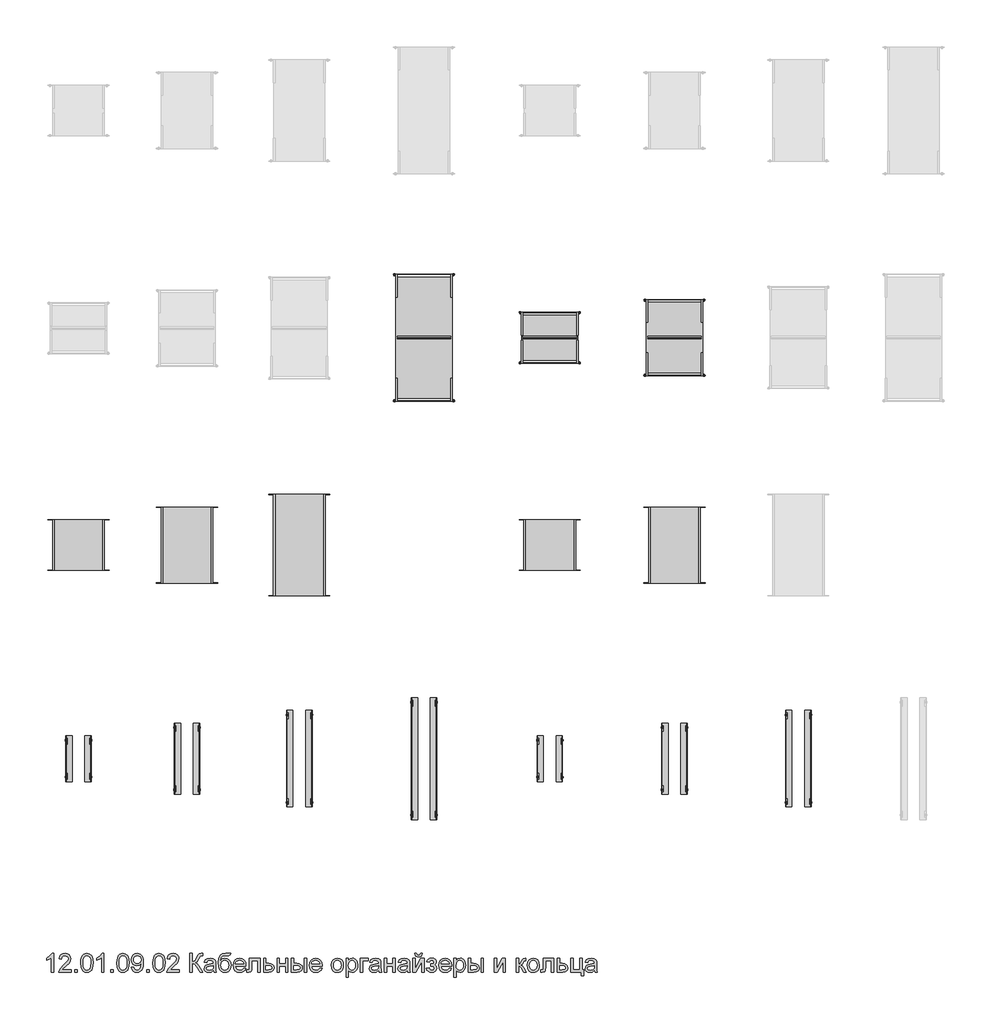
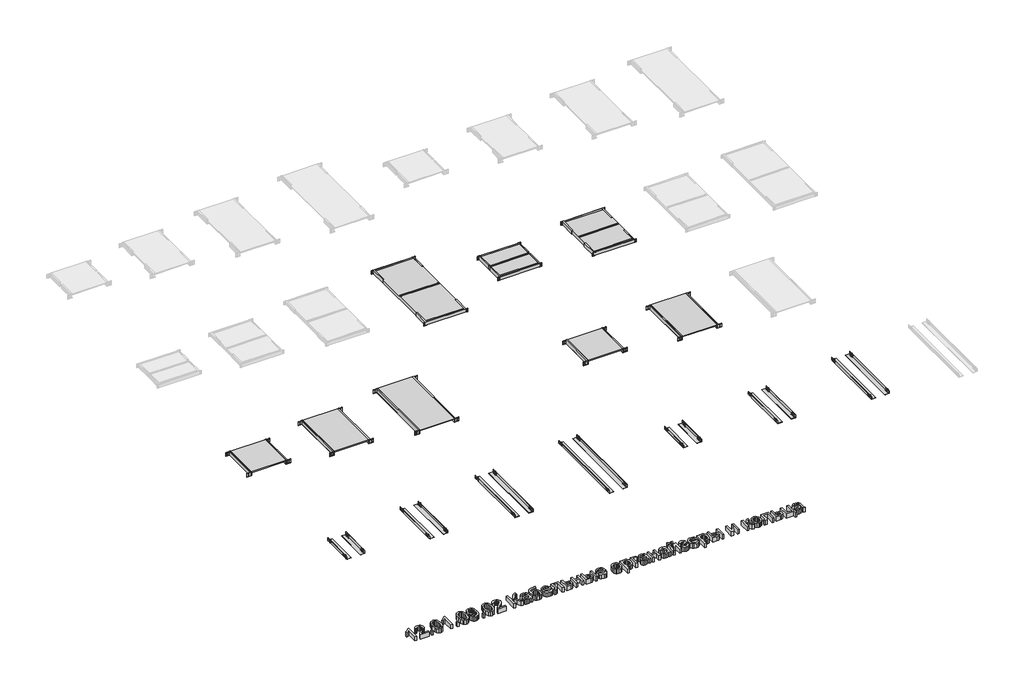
# One storey, part 3 of 9: 16 proxies.
"""IFC4 building model written with IfcOpenShell, lengths in millimetres."""

from ifc_helpers import new_model, si_unit, origin, origin_with_axes, place, context, project, spatial, polyline, outline, extrude, transform, mapped, element, save
from components import fs05_1000pm_f160d74f, fs05_400mp_c59a2a9c, fs05_600pm_b98099e4, sr05_1000_026dfe76, sr05_1000_b6e2f19d, sr05_400_26692d24, sr05_400_e49731d8, sr05_600_a44accf0, sr05_600_75813493, sr05_800_1027cb62, sr05_800_6b87222d, ss05_400pi_edb87cb5, ss05_600pi_b2c20814, ss05_800pi_71e741bb

model = new_model("IFC4")

# Units and contexts
model_context = context("Model", 3, world=origin())
ifc_project = project(units=[si_unit("LENGTHUNIT", "METRE", prefix="MILLI")], contexts=[model_context])

# Site, building, storey
site = spatial("IfcSite", under=ifc_project)
building = spatial("IfcBuilding", under=site)
storey = spatial("IfcBuildingStorey", under=building, Name="Уровень 1", Elevation=0.0)

# Proxies
placement = place(None, origin())
element("IfcBuildingElementProxy", 1, Name="Надпись на модели 1", ObjectType="Надпись на модели 1", at=placement, inside=storey, context=model_context, shape_type="SweptSolid", body=[
    extrude(outline(polyline([(-45344.4287165, -37022.1712032), (-45362.8902549, -37022.1712032), (-45362.8902549, -36907.0750493), (-45380.3782357, -36919.532982), (-45399.8133319, -36928.8538955), (-45399.8133319, -36911.4019724), (-45372.7520338, -36894.1303378), (-45356.3277549, -36874.4788955), (-45344.4287165, -36874.4788955), (-45344.4287165, -37022.1712032)])), origin_with_axes(), (0.0, 0.0, 1.0), 50.0),
    extrude(outline(polyline([(-45205.967178, -37003.7096647), (-45205.967178, -37022.1712032), (-45302.8902549, -37022.1712032), (-45300.9070819, -37009.4428378), (-45289.6931395, -36989.845482), (-45266.5801588, -36968.4452416), (-45234.7051588, -36937.6880301), (-45228.7285963, -36927.0870686), (-45226.7364088, -36916.7745686), (-45228.615916, -36907.5302777), (-45234.2544376, -36899.845482), (-45242.9218054, -36894.666696), (-45253.8878511, -36892.9404339), (-45265.4037766, -36894.6261311), (-45274.3505915, -36899.6832224), (-45280.1243294, -36907.7150734), (-45282.1210242, -36918.3250493), (-45300.5825626, -36916.017357), (-45296.1069016, -36898.1597849), (-45286.4299184, -36885.1159147), (-45272.0564208, -36877.1381503), (-45253.4912165, -36874.4788955), (-45234.7907958, -36877.4356262), (-45220.4443415, -36886.3058186), (-45211.3172381, -36899.5570205), (-45208.2748703, -36915.6567801), (-45211.5561203, -36933.1627897), (-45222.4635722, -36951.2637512), (-45248.9118895, -36976.5582224), (-45270.1498703, -36994.3166359), (-45278.4791972, -37003.7096647), (-45205.967178, -37003.7096647)])), origin_with_axes(), (0.0, 0.0, 1.0), 50.0),
    extrude(outline(polyline([(-45178.2748703, -37022.1712032), (-45178.2748703, -37003.7096647), (-45159.8133319, -37003.7096647), (-45159.8133319, -37022.1712032), (-45178.2748703, -37022.1712032)])), origin_with_axes(), (0.0, 0.0, 1.0), 50.0),
    extrude(outline(polyline([(-45129.8133319, -36949.5149532), (-45128.4566612, -36925.8746287), (-45124.3866492, -36907.0209628), (-45117.6438607, -36892.665494), (-45108.2688607, -36882.5197609), (-45096.194041, -36876.4891118), (-45081.3517934, -36874.4788955), (-45059.7892934, -36879.2385109), (-45044.8974665, -36892.9584628), (-45036.2436203, -36914.8094243), (-45032.8902549, -36949.5149532), (-45034.233404, -36973.0200613), (-45038.2628511, -36991.8286551), (-45044.9650746, -37006.1976455), (-45054.326553, -37016.3839436), (-45066.428416, -37022.4551575), (-45081.3517934, -37024.4788955), (-45100.5344857, -37020.9632705), (-45115.1017934, -37010.4163955), (-45126.1354472, -36985.4374291), (-45129.8133319, -36949.5149532)]), holes=[polyline([(-45111.3517934, -36949.4788955), (-45109.1883319, -36978.5188594), (-45102.6979472, -36995.3262512), (-45093.0344857, -37003.3445806), (-45081.3517934, -37006.017357), (-45069.6691011, -37003.3355662), (-45060.0056395, -36995.2901936), (-45053.5152549, -36978.4737873), (-45051.3517934, -36949.4788955), (-45053.4431395, -36921.0924772), (-45059.717178, -36904.1543762), (-45069.3626107, -36895.7439195), (-45081.5681395, -36892.9404339), (-45093.1246299, -36895.4103859), (-45102.4094857, -36902.8202416), (-45109.1162165, -36920.8130301), (-45111.3517934, -36949.4788955)])]), origin_with_axes(), (0.0, 0.0, 1.0), 50.0),
    extrude(outline(polyline([(-44947.5056395, -37022.1712032), (-44965.967178, -37022.1712032), (-44965.967178, -36907.0750493), (-44983.4551588, -36919.532982), (-45002.8902549, -36928.8538955), (-45002.8902549, -36911.4019724), (-44975.8289569, -36894.1303378), (-44959.404678, -36874.4788955), (-44947.5056395, -36874.4788955), (-44947.5056395, -37022.1712032)])), origin_with_axes(), (0.0, 0.0, 1.0), 50.0),
    extrude(outline(polyline([(-44894.4287165, -37022.1712032), (-44894.4287165, -37003.7096647), (-44875.967178, -37003.7096647), (-44875.967178, -37022.1712032), (-44894.4287165, -37022.1712032)])), origin_with_axes(), (0.0, 0.0, 1.0), 50.0),
    extrude(outline(polyline([(-44845.967178, -36949.5149532), (-44844.6105073, -36925.8746287), (-44840.5404953, -36907.0209628), (-44833.7977069, -36892.665494), (-44824.4227069, -36882.5197609), (-44812.3478871, -36876.4891118), (-44797.5056395, -36874.4788955), (-44775.9431395, -36879.2385109), (-44761.0513126, -36892.9584628), (-44752.3974665, -36914.8094243), (-44749.0441011, -36949.5149532), (-44750.3872501, -36973.0200613), (-44754.4166972, -36991.8286551), (-44761.1189208, -37006.1976455), (-44770.4803992, -37016.3839436), (-44782.5822621, -37022.4551575), (-44797.5056395, -37024.4788955), (-44816.6883319, -37020.9632705), (-44831.2556395, -37010.4163955), (-44842.2892934, -36985.4374291), (-44845.967178, -36949.5149532)]), holes=[polyline([(-44827.5056395, -36949.4788955), (-44825.342178, -36978.5188594), (-44818.8517934, -36995.3262512), (-44809.1883319, -37003.3445806), (-44797.5056395, -37006.017357), (-44785.8229472, -37003.3355662), (-44776.1594857, -36995.2901936), (-44769.6691011, -36978.4737873), (-44767.5056395, -36949.4788955), (-44769.5969857, -36921.0924772), (-44775.8710242, -36904.1543762), (-44785.5164569, -36895.7439195), (-44797.7219857, -36892.9404339), (-44809.2784761, -36895.4103859), (-44818.5633319, -36902.8202416), (-44825.2700626, -36920.8130301), (-44827.5056395, -36949.4788955)])]), origin_with_axes(), (0.0, 0.0, 1.0), 50.0),
    extrude(outline(polyline([(-44730.5825626, -36985.2481262), (-44712.1210242, -36982.9404339), (-44708.9659761, -36993.4197008), (-44703.8277549, -37000.5546166), (-44688.1066011, -37006.017357), (-44673.1606876, -37002.501732), (-44663.0284761, -36993.1087032), (-44656.9888126, -36977.0630301), (-44654.3205434, -36955.6447609), (-44654.4287165, -36952.0389916), (-44669.1943415, -36966.0293762), (-44689.4407357, -36971.4019724), (-44706.2751708, -36968.1207224), (-44720.2880915, -36958.2769724), (-44729.7397141, -36943.0696407), (-44732.8902549, -36923.6976455), (-44729.5864689, -36903.6856262), (-44719.6751107, -36888.0005301), (-44704.787791, -36877.8593041), (-44686.5561203, -36874.4788955), (-44672.7865891, -36876.407982), (-44660.2520338, -36882.1952416), (-44649.7682597, -36891.5522128), (-44642.1510722, -36904.1904339), (-44637.5131516, -36921.6603859), (-44635.967178, -36945.5125493), (-44637.5086444, -36970.8025133), (-44642.1330434, -36990.3502897), (-44649.7998102, -37005.0392921), (-44660.4683799, -37015.7529339), (-44673.6790169, -37022.2974051), (-44688.9719857, -37024.4788955), (-44704.7562405, -37021.9052777), (-44717.3493895, -37014.1844243), (-44726.1564809, -37001.8031142), (-44730.5825626, -36985.2481262)]), holes=[polyline([(-44654.4287165, -36923.2649532), (-44656.420904, -36910.7529339), (-44662.3974665, -36901.1255301), (-44671.6733078, -36894.986708), (-44683.5633319, -36892.9404339), (-44695.8950626, -36895.1444604), (-44705.7748703, -36901.7565397), (-44712.2652549, -36911.8752296), (-44714.4287165, -36924.5990878), (-44712.3824424, -36936.0068402), (-44706.2436203, -36945.0618282), (-44696.607202, -36950.9707825), (-44684.0681395, -36952.9404339), (-44672.2727669, -36950.9707825), (-44662.7760722, -36945.0618282), (-44656.5155554, -36935.6733065), (-44654.4287165, -36923.2649532)])]), origin_with_axes(), (0.0, 0.0, 1.0), 50.0),
    extrude(outline(polyline([(-44610.5825626, -37022.1712032), (-44610.5825626, -37003.7096647), (-44592.1210242, -37003.7096647), (-44592.1210242, -37022.1712032), (-44610.5825626, -37022.1712032)])), origin_with_axes(), (0.0, 0.0, 1.0), 50.0),
    extrude(outline(polyline([(-44562.1210242, -36949.5149532), (-44560.7643535, -36925.8746287), (-44556.6943415, -36907.0209628), (-44549.951553, -36892.665494), (-44540.576553, -36882.5197609), (-44528.5017333, -36876.4891118), (-44513.6594857, -36874.4788955), (-44492.0969857, -36879.2385109), (-44477.2051588, -36892.9584628), (-44468.5513126, -36914.8094243), (-44465.1979472, -36949.5149532), (-44466.5410963, -36973.0200613), (-44470.5705434, -36991.8286551), (-44477.2727669, -37006.1976455), (-44486.6342453, -37016.3839436), (-44498.7361083, -37022.4551575), (-44513.6594857, -37024.4788955), (-44532.842178, -37020.9632705), (-44547.4094857, -37010.4163955), (-44558.4431395, -36985.4374291), (-44562.1210242, -36949.5149532)]), holes=[polyline([(-44543.6594857, -36949.4788955), (-44541.4960242, -36978.5188594), (-44535.0056395, -36995.3262512), (-44525.342178, -37003.3445806), (-44513.6594857, -37006.017357), (-44501.9767934, -37003.3355662), (-44492.3133319, -36995.2901936), (-44485.8229472, -36978.4737873), (-44483.6594857, -36949.4788955), (-44485.7508319, -36921.0924772), (-44492.0248703, -36904.1543762), (-44501.670303, -36895.7439195), (-44513.8758319, -36892.9404339), (-44525.4323222, -36895.4103859), (-44534.717178, -36902.8202416), (-44541.4239088, -36920.8130301), (-44543.6594857, -36949.4788955)])]), origin_with_axes(), (0.0, 0.0, 1.0), 50.0),
    extrude(outline(polyline([(-44354.4287165, -37003.7096647), (-44354.4287165, -37022.1712032), (-44451.3517934, -37022.1712032), (-44449.3686203, -37009.4428378), (-44438.154678, -36989.845482), (-44415.0416972, -36968.4452416), (-44383.1666972, -36937.6880301), (-44377.1901347, -36927.0870686), (-44375.1979472, -36916.7745686), (-44377.0774544, -36907.5302777), (-44382.7159761, -36899.845482), (-44391.3833439, -36894.666696), (-44402.3493895, -36892.9404339), (-44413.865315, -36894.6261311), (-44422.8121299, -36899.6832224), (-44428.5858679, -36907.7150734), (-44430.5825626, -36918.3250493), (-44449.0441011, -36916.017357), (-44444.56844, -36898.1597849), (-44434.8914569, -36885.1159147), (-44420.5179593, -36877.1381503), (-44401.9527549, -36874.4788955), (-44383.2523343, -36877.4356262), (-44368.9058799, -36886.3058186), (-44359.7787766, -36899.5570205), (-44356.7364088, -36915.6567801), (-44360.0176588, -36933.1627897), (-44370.9251107, -36951.2637512), (-44397.373428, -36976.5582224), (-44418.6114088, -36994.3166359), (-44426.9407357, -37003.7096647), (-44354.4287165, -37003.7096647)])), origin_with_axes(), (0.0, 0.0, 1.0), 50.0),
    extrude(outline(polyline([(-44271.3517934, -36874.4788955), (-44252.8902549, -36874.4788955), (-44252.8902549, -36939.0942801), (-44240.3917573, -36937.8728258), (-44232.2472261, -36934.2084628), (-44217.842178, -36909.4909147), (-44207.6558799, -36888.8478859), (-44196.1174184, -36878.6255301), (-44179.6210242, -36874.4788955), (-44167.5056395, -36874.6952416), (-44167.5056395, -36893.1567801), (-44171.5801588, -36893.048607), (-44175.654678, -36892.9404339), (-44190.0777549, -36897.3755301), (-44201.0392934, -36916.3779339), (-44214.1102069, -36939.5269724), (-44226.8566011, -36947.1712032), (-44212.6047982, -36955.5185589), (-44198.5513126, -36972.9163955), (-44167.5056395, -37022.1712032), (-44188.9239088, -37022.1712032), (-44215.1739088, -36980.5606262), (-44233.6534761, -36958.8358666), (-44242.1856275, -36954.4142921), (-44252.8902549, -36952.9404339), (-44252.8902549, -37022.1712032), (-44271.3517934, -37022.1712032), (-44271.3517934, -36874.4788955)])), origin_with_axes(), (0.0, 0.0, 1.0), 50.0),
    extrude(outline(polyline([(-44084.4287165, -37008.3250493), (-44102.3313607, -37020.8370686), (-44122.1090049, -37024.4788955), (-44137.53719, -37022.2883907), (-44148.9178992, -37015.7168762), (-44155.9356275, -37005.7379099), (-44158.2748703, -36993.3250493), (-44154.7412165, -36978.7216839), (-44145.4563607, -36968.1207224), (-44132.529678, -36962.0630301), (-44116.5561203, -36959.2865878), (-44084.5368895, -36952.9404339), (-44084.4287165, -36948.829857), (-44085.6997501, -36940.5906743), (-44089.5128511, -36935.2000493), (-44098.0404953, -36931.1976455), (-44109.9215049, -36929.8635109), (-44128.5993895, -36933.4151936), (-44137.5056395, -36946.017357), (-44155.967178, -36943.7096647), (-44147.9803992, -36925.6808186), (-44131.8986684, -36915.1159147), (-44107.5416972, -36911.4019724), (-44085.1678992, -36914.6832224), (-44072.529678, -36922.9224051), (-44066.8686203, -36935.4524532), (-44065.967178, -36951.6062993), (-44065.967178, -36974.5750493), (-44065.029678, -37006.6483666), (-44061.3517934, -37022.1712032), (-44079.8133319, -37022.1712032), (-44084.4287165, -37008.3250493)]), holes=[polyline([(-44084.4287165, -36971.4019724), (-44114.2123703, -36977.0630301), (-44130.0957838, -36980.0558186), (-44137.2892934, -36984.923607), (-44139.8133319, -36992.0269724), (-44134.3145338, -37002.0149532), (-44118.1787165, -37006.017357), (-44099.5008319, -37001.6002897), (-44087.4575626, -36990.9091839), (-44084.5368895, -36976.6303378), (-44084.4287165, -36971.4019724)])]), origin_with_axes(), (0.0, 0.0, 1.0), 50.0),
    extrude(outline(polyline([(-43964.4287165, -36872.1712032), (-43948.2748703, -36872.1712032), (-43953.0344857, -36886.5762512), (-43962.4455434, -36891.7865878), (-43985.0537165, -36892.9404339), (-44015.5044376, -36897.1952416), (-44022.4906155, -36902.7300974), (-44027.1871299, -36910.8250493), (-44031.1354472, -36934.9476455), (-44015.1438607, -36917.2793762), (-43994.5368895, -36911.4019724), (-43975.327154, -36915.1384508), (-43959.7412165, -36926.3478859), (-43949.4106876, -36943.9305181), (-43945.967178, -36966.7865878), (-43947.6754112, -36984.4097849), (-43952.8001107, -36998.5534147), (-43969.0080434, -37017.7180782), (-43980.0777549, -37022.7886912), (-43994.5368895, -37024.4788955), (-44011.2000506, -37022.3019123), (-44023.6895338, -37015.7709628), (-44032.8797381, -37005.846083), (-44039.6450626, -36993.4873089), (-44043.8097261, -36974.8770325), (-44045.1979472, -36946.1976455), (-44041.6958439, -36910.77547), (-44031.1895338, -36889.1724051), (-44013.4175987, -36878.1522729), (-43988.1186203, -36874.4788955), (-43967.5657357, -36874.064232), (-43964.4287165, -36872.1712032)]), holes=[polyline([(-43964.4287165, -36966.2096647), (-43966.4299184, -36951.6829219), (-43972.4335242, -36940.0498089), (-43982.0789569, -36932.4100854), (-43995.0056395, -36929.8635109), (-44008.482202, -36932.5543162), (-44018.4791972, -36940.626732), (-44024.6721059, -36953.197345), (-44026.7364088, -36969.3827416), (-44024.4557597, -36985.072345), (-44017.6138126, -36996.5882705), (-44007.4275145, -37003.6600854), (-43995.1138126, -37006.017357), (-43982.7370097, -37003.290494), (-43972.9383319, -36995.1099051), (-43966.5561203, -36982.431119), (-43964.4287165, -36966.2096647)])]), origin_with_axes(), (0.0, 0.0, 1.0), 50.0),
    extrude(outline(polyline([(-43846.9527549, -36989.8635109), (-43828.8517934, -36992.1712032), (-43835.3737285, -37005.8100253), (-43845.7808799, -37016.0053378), (-43859.8388727, -37022.3605061), (-43877.3133319, -37024.4788955), (-43898.9749905, -37020.8235469), (-43915.6426588, -37009.8575012), (-43926.2706636, -36992.2928979), (-43929.8133319, -36968.8418762), (-43926.2346059, -36944.6020926), (-43915.498428, -36926.4740878), (-43899.0561203, -36915.1700012), (-43878.3590049, -36911.4019724), (-43858.3064208, -36915.1609868), (-43842.2832838, -36926.4380301), (-43831.7769737, -36944.5299772), (-43828.2748703, -36968.7337032), (-43828.3830434, -36973.7096647), (-43911.3517934, -36973.7096647), (-43908.1561804, -36987.5287753), (-43900.732803, -36997.6880301), (-43890.0191612, -37003.9350253), (-43876.9527549, -37006.017357), (-43858.8517934, -37002.1591839), (-43846.9527549, -36989.8635109)]), holes=[polyline([(-43911.3517934, -36955.2481262), (-43846.7364088, -36955.2481262), (-43849.233404, -36945.4945205), (-43854.1282357, -36938.517357), (-43864.8914569, -36932.0269724), (-43878.4311203, -36929.8635109), (-43890.8755314, -36931.5897729), (-43901.1654953, -36936.7685589), (-43908.31844, -36944.8409748), (-43911.3517934, -36955.2481262)])]), origin_with_axes(), (0.0, 0.0, 1.0), 50.0),
    extrude(outline(polyline([(-43800.5825626, -36913.7096647), (-43717.5056395, -36913.7096647), (-43717.5056395, -37022.0630301), (-43735.967178, -37022.0630301), (-43735.967178, -36932.1712032), (-43782.1210242, -36932.1712032), (-43782.1210242, -36983.9139916), (-43783.3650145, -37007.7841839), (-43790.1979472, -37017.8623089), (-43806.3517934, -37022.1712032), (-43821.3517934, -37021.2337032), (-43821.3517934, -37003.7096647), (-43813.0945819, -37003.7096647), (-43804.7472261, -37002.5738474), (-43801.4118895, -36998.9680782), (-43800.5825626, -36982.8683186), (-43800.5825626, -36913.7096647)])), origin_with_axes(), (0.0, 0.0, 1.0), 50.0),
    extrude(outline(polyline([(-43689.8133319, -36913.7096647), (-43671.3517934, -36913.7096647), (-43671.3517934, -36952.9404339), (-43650.0777549, -36952.9404339), (-43631.6342453, -36955.2526335), (-43617.9864088, -36962.189232), (-43609.5489088, -36973.1913354), (-43606.7364088, -36987.7000493), (-43609.1297381, -37000.9106863), (-43616.3097261, -37012.0570205), (-43628.7541371, -37019.6426575), (-43646.9407357, -37022.1712032), (-43689.8133319, -37022.1712032), (-43689.8133319, -36913.7096647)]), holes=[polyline([(-43671.3517934, -37003.7096647), (-43654.1162165, -37003.7096647), (-43631.8505915, -36999.8334628), (-43626.8611083, -36994.8710229), (-43625.1979472, -36987.736107), (-43630.1198222, -36976.3779339), (-43638.0299785, -36972.6459628), (-43651.9166972, -36971.4019724), (-43671.3517934, -36971.4019724), (-43671.3517934, -37003.7096647)])]), origin_with_axes(), (0.0, 0.0, 1.0), 50.0),
    extrude(outline(polyline([(-43583.6594857, -36913.7096647), (-43565.1979472, -36913.7096647), (-43565.1979472, -36955.2481262), (-43516.7364088, -36955.2481262), (-43516.7364088, -36913.7096647), (-43498.2748703, -36913.7096647), (-43498.2748703, -37022.1712032), (-43516.7364088, -37022.1712032), (-43516.7364088, -36973.7096647), (-43565.1979472, -36973.7096647), (-43565.1979472, -37022.1712032), (-43583.6594857, -37022.1712032), (-43583.6594857, -36913.7096647)])), origin_with_axes(), (0.0, 0.0, 1.0), 50.0),
    extrude(outline(polyline([(-43470.5825626, -36913.7096647), (-43452.1210242, -36913.7096647), (-43452.1210242, -36952.9404339), (-43429.2965049, -36952.9404339), (-43409.56844, -36955.2526335), (-43394.951553, -36962.189232), (-43385.9055794, -36973.1913354), (-43382.8902549, -36987.7000493), (-43385.4188006, -37000.9106863), (-43393.0044376, -37012.0570205), (-43406.1429593, -37019.6426575), (-43425.3301588, -37022.1712032), (-43470.5825626, -37022.1712032), (-43470.5825626, -36913.7096647)]), holes=[polyline([(-43452.1210242, -37003.7096647), (-43433.154678, -37003.7096647), (-43408.6715049, -36999.8334628), (-43403.1817213, -36994.8710229), (-43401.3517934, -36987.736107), (-43406.7784761, -36976.3779339), (-43415.4819016, -36972.6459628), (-43430.7388126, -36971.4019724), (-43452.1210242, -36971.4019724), (-43452.1210242, -37003.7096647)])]), origin_with_axes(), (0.0, 0.0, 1.0), 50.0),
    extrude(outline(polyline([(-43369.0441011, -36913.7096647), (-43350.5825626, -36913.7096647), (-43350.5825626, -37022.1712032), (-43369.0441011, -37022.1712032), (-43369.0441011, -36913.7096647)])), origin_with_axes(), (0.0, 0.0, 1.0), 50.0),
    extrude(outline(polyline([(-43246.9527549, -36989.8635109), (-43228.8517934, -36992.1712032), (-43235.3737285, -37005.8100253), (-43245.7808799, -37016.0053378), (-43259.8388727, -37022.3605061), (-43277.3133319, -37024.4788955), (-43298.9749905, -37020.8235469), (-43315.6426588, -37009.8575012), (-43326.2706636, -36992.2928979), (-43329.8133319, -36968.8418762), (-43326.2346059, -36944.6020926), (-43315.498428, -36926.4740878), (-43299.0561203, -36915.1700012), (-43278.3590049, -36911.4019724), (-43258.3064208, -36915.1609868), (-43242.2832838, -36926.4380301), (-43231.7769737, -36944.5299772), (-43228.2748703, -36968.7337032), (-43228.3830434, -36973.7096647), (-43311.3517934, -36973.7096647), (-43308.1561804, -36987.5287753), (-43300.732803, -36997.6880301), (-43290.0191612, -37003.9350253), (-43276.9527549, -37006.017357), (-43258.8517934, -37002.1591839), (-43246.9527549, -36989.8635109)]), holes=[polyline([(-43311.3517934, -36955.2481262), (-43246.7364088, -36955.2481262), (-43249.233404, -36945.4945205), (-43254.1282357, -36938.517357), (-43264.8914569, -36932.0269724), (-43278.4311203, -36929.8635109), (-43290.8755314, -36931.5897729), (-43301.1654953, -36936.7685589), (-43308.31844, -36944.8409748), (-43311.3517934, -36955.2481262)])]), origin_with_axes(), (0.0, 0.0, 1.0), 50.0),
    extrude(outline(polyline([(-43156.7364088, -36967.9404339), (-43152.7430194, -36941.7895926), (-43140.7628511, -36923.4091839), (-43125.9611684, -36914.4037753), (-43108.2388126, -36911.4019724), (-43088.8442814, -36915.057321), (-43073.3529953, -36926.0233666), (-43063.1982477, -36943.4347248), (-43059.8133319, -36966.4260109), (-43061.3097261, -36985.0768522), (-43065.7989088, -36999.2745686), (-43073.1501708, -37009.9070806), (-43083.232803, -37017.8623089), (-43095.2084641, -37022.8247488), (-43108.2388126, -37024.4788955), (-43127.8677189, -37020.8370686), (-43143.3409761, -37009.9115878), (-43153.3875506, -36992.1351455), (-43156.7364088, -36967.9404339)]), holes=[polyline([(-43138.2748703, -36967.9043762), (-43136.138452, -36984.6126094), (-43129.7291972, -36996.5161551), (-43120.0837645, -37003.6420565), (-43108.2388126, -37006.017357), (-43096.4479472, -37003.6285349), (-43086.8205434, -36996.4620686), (-43080.4112886, -36984.4007705), (-43078.2748703, -36967.3274532), (-43080.4248102, -36951.1059988), (-43086.8746299, -36939.3647128), (-43096.5155554, -36932.2388113), (-43108.2388126, -36929.8635109), (-43120.0837645, -36932.2297969), (-43129.7291972, -36939.3286551), (-43136.138452, -36951.2051575), (-43138.2748703, -36967.9043762)])]), origin_with_axes(), (0.0, 0.0, 1.0), 50.0),
    extrude(outline(polyline([(-43039.0441011, -37063.7096647), (-43039.0441011, -36913.7096647), (-43020.5825626, -36913.7096647), (-43020.5825626, -36931.8106262), (-43007.8181395, -36916.5041359), (-42990.5825626, -36911.4019724), (-42978.0975867, -36913.1868282), (-42967.1811203, -36918.5413955), (-42958.2928992, -36927.1411551), (-42951.8926588, -36938.6615878), (-42946.7364088, -36967.111107), (-42948.1922381, -36982.899869), (-42952.5597261, -36997.0209628), (-42959.6991492, -37008.7577416), (-42969.4707838, -37017.3935589), (-42980.8514929, -37022.7075613), (-42992.8181395, -37024.4788955), (-43008.8818415, -37019.7373089), (-43020.5825626, -37007.7481262), (-43020.5825626, -37063.7096647), (-43039.0441011, -37063.7096647)]), holes=[polyline([(-43020.5825626, -36968.8058186), (-43018.5858679, -36985.3562993), (-43012.5957838, -36996.9308186), (-43003.7571419, -37003.7457224), (-42993.2147742, -37006.017357), (-42982.5011323, -37003.6645926), (-42973.4371299, -36996.6062993), (-42967.2577429, -36984.6081022), (-42965.1979472, -36967.4356262), (-42967.2081636, -36950.9752897), (-42973.2388126, -36939.2385109), (-42982.0639328, -36932.2072609), (-42992.4575626, -36929.8635109), (-43002.8917573, -36932.3559988), (-43012.0549184, -36939.8334628), (-43018.4506516, -36952.0615277), (-43020.5825626, -36968.8058186)])]), origin_with_axes(), (0.0, 0.0, 1.0), 50.0),
    extrude(outline(polyline([(-42925.967178, -36913.7096647), (-42865.967178, -36913.7096647), (-42865.967178, -36932.1712032), (-42907.5056395, -36932.1712032), (-42907.5056395, -37022.1712032), (-42925.967178, -37022.1712032), (-42925.967178, -36913.7096647)])), origin_with_axes(), (0.0, 0.0, 1.0), 50.0),
    extrude(outline(polyline([(-42782.8902549, -37008.3250493), (-42800.7928992, -37020.8370686), (-42820.5705434, -37024.4788955), (-42835.9987285, -37022.2883907), (-42847.3794376, -37015.7168762), (-42854.397166, -37005.7379099), (-42856.7364088, -36993.3250493), (-42853.2027549, -36978.7216839), (-42843.9178992, -36968.1207224), (-42830.9912165, -36962.0630301), (-42815.0176588, -36959.2865878), (-42782.998428, -36952.9404339), (-42782.8902549, -36948.829857), (-42784.1612886, -36940.5906743), (-42787.9743895, -36935.2000493), (-42796.5020338, -36931.1976455), (-42808.3830434, -36929.8635109), (-42827.060928, -36933.4151936), (-42835.967178, -36946.017357), (-42854.4287165, -36943.7096647), (-42846.4419376, -36925.6808186), (-42830.3602069, -36915.1159147), (-42806.0032357, -36911.4019724), (-42783.6294376, -36914.6832224), (-42770.9912165, -36922.9224051), (-42765.3301588, -36935.4524532), (-42764.4287165, -36951.6062993), (-42764.4287165, -36974.5750493), (-42763.4912165, -37006.6483666), (-42759.8133319, -37022.1712032), (-42778.2748703, -37022.1712032), (-42782.8902549, -37008.3250493)]), holes=[polyline([(-42782.8902549, -36971.4019724), (-42812.6739088, -36977.0630301), (-42828.5573222, -36980.0558186), (-42835.7508319, -36984.923607), (-42838.2748703, -36992.0269724), (-42832.7760722, -37002.0149532), (-42816.6402549, -37006.017357), (-42797.9623703, -37001.6002897), (-42785.9191011, -36990.9091839), (-42782.998428, -36976.6303378), (-42782.8902549, -36971.4019724)])]), origin_with_axes(), (0.0, 0.0, 1.0), 50.0),
    extrude(outline(polyline([(-42739.0441011, -36913.7096647), (-42720.5825626, -36913.7096647), (-42720.5825626, -36955.2481262), (-42672.1210242, -36955.2481262), (-42672.1210242, -36913.7096647), (-42653.6594857, -36913.7096647), (-42653.6594857, -37022.1712032), (-42672.1210242, -37022.1712032), (-42672.1210242, -36973.7096647), (-42720.5825626, -36973.7096647), (-42720.5825626, -37022.1712032), (-42739.0441011, -37022.1712032), (-42739.0441011, -36913.7096647)])), origin_with_axes(), (0.0, 0.0, 1.0), 50.0),
    extrude(outline(polyline([(-42556.7364088, -37008.3250493), (-42574.639053, -37020.8370686), (-42594.4166972, -37024.4788955), (-42609.8448823, -37022.2883907), (-42621.2255915, -37015.7168762), (-42628.2433198, -37005.7379099), (-42630.5825626, -36993.3250493), (-42627.0489088, -36978.7216839), (-42617.764053, -36968.1207224), (-42604.8373703, -36962.0630301), (-42588.8638126, -36959.2865878), (-42556.8445819, -36952.9404339), (-42556.7364088, -36948.829857), (-42558.0074424, -36940.5906743), (-42561.8205434, -36935.2000493), (-42570.3481876, -36931.1976455), (-42582.2291972, -36929.8635109), (-42600.9070819, -36933.4151936), (-42609.8133319, -36946.017357), (-42628.2748703, -36943.7096647), (-42620.2880915, -36925.6808186), (-42604.2063607, -36915.1159147), (-42579.8493895, -36911.4019724), (-42557.4755915, -36914.6832224), (-42544.8373703, -36922.9224051), (-42539.1763126, -36935.4524532), (-42538.2748703, -36951.6062993), (-42538.2748703, -36974.5750493), (-42537.3373703, -37006.6483666), (-42533.6594857, -37022.1712032), (-42552.1210242, -37022.1712032), (-42556.7364088, -37008.3250493)]), holes=[polyline([(-42556.7364088, -36971.4019724), (-42586.5200626, -36977.0630301), (-42602.4034761, -36980.0558186), (-42609.5969857, -36984.923607), (-42612.1210242, -36992.0269724), (-42606.6222261, -37002.0149532), (-42590.4864088, -37006.017357), (-42571.8085242, -37001.6002897), (-42559.7652549, -36990.9091839), (-42556.8445819, -36976.6303378), (-42556.7364088, -36971.4019724)])]), origin_with_axes(), (0.0, 0.0, 1.0), 50.0),
    extrude(outline(polyline([(-42452.8902549, -36874.4788955), (-42439.0441011, -36874.4788955), (-42442.0233679, -36886.3013113), (-42448.0044376, -36895.0137512), (-42456.7168775, -36900.3818402), (-42467.8902549, -36902.1712032), (-42480.014654, -36900.3953618), (-42489.4166972, -36895.0678378), (-42495.8439809, -36886.3689195), (-42499.0441011, -36874.4788955), (-42485.1979472, -36874.4788955), (-42480.0056395, -36884.8815397), (-42469.5489088, -36888.3250493), (-42458.0825626, -36884.9897128), (-42452.8902549, -36874.4788955)])), origin_with_axes(), (0.0, 0.0, 1.0), 50.0),
    extrude(outline(polyline([(-42512.8902549, -36913.7096647), (-42494.4287165, -36913.7096647), (-42494.4287165, -36996.4260109), (-42449.0681395, -36913.7096647), (-42425.1979472, -36913.7096647), (-42425.1979472, -37022.1712032), (-42443.6594857, -37022.1712032), (-42443.6594857, -36939.9596647), (-42488.7316011, -37022.1712032), (-42512.8902549, -37022.1712032), (-42512.8902549, -36913.7096647)])), origin_with_axes(), (0.0, 0.0, 1.0), 50.0),
    extrude(outline(polyline([(-42372.1210242, -36973.7096647), (-42372.1210242, -36955.2481262), (-42357.5537165, -36954.5269724), (-42350.1979472, -36950.6868282), (-42346.7364088, -36942.6639916), (-42351.3698222, -36933.3430782), (-42363.3229472, -36929.8635109), (-42375.6727069, -36933.3250493), (-42383.6594857, -36943.7096647), (-42404.4287165, -36941.4019724), (-42398.920904, -36928.2769724), (-42390.5465049, -36918.9019724), (-42379.3055194, -36913.2769724), (-42365.1979472, -36911.4019724), (-42349.7652549, -36913.6871287), (-42338.0825626, -36920.5425974), (-42330.7267934, -36930.5711431), (-42328.2748703, -36942.3755301), (-42331.763452, -36953.8418762), (-42342.2291972, -36962.7120686), (-42330.0236684, -36974.2144724), (-42325.967178, -36990.7649532), (-42328.5407958, -37004.354196), (-42336.2616492, -37015.1219243), (-42348.6069016, -37022.1396527), (-42365.0537165, -37024.4788955), (-42381.1399544, -37022.3154339), (-42393.4491492, -37015.8250493), (-42401.9813006, -37005.0077416), (-42406.7364088, -36989.8635109), (-42385.967178, -36987.5558186), (-42377.6378511, -37001.1856262), (-42363.2868895, -37006.017357), (-42349.8013126, -37001.3839436), (-42344.4287165, -36989.5389916), (-42347.764053, -36979.8394724), (-42354.8674184, -36974.6471647), (-42368.5152549, -36973.6014916), (-42372.1210242, -36973.7096647)])), origin_with_axes(), (0.0, 0.0, 1.0), 50.0),
    extrude(outline(polyline([(-42226.9527549, -36989.8635109), (-42208.8517934, -36992.1712032), (-42215.3737285, -37005.8100253), (-42225.7808799, -37016.0053378), (-42239.8388727, -37022.3605061), (-42257.3133319, -37024.4788955), (-42278.9749905, -37020.8235469), (-42295.6426588, -37009.8575012), (-42306.2706636, -36992.2928979), (-42309.8133319, -36968.8418762), (-42306.2346059, -36944.6020926), (-42295.498428, -36926.4740878), (-42279.0561203, -36915.1700012), (-42258.3590049, -36911.4019724), (-42238.3064208, -36915.1609868), (-42222.2832838, -36926.4380301), (-42211.7769737, -36944.5299772), (-42208.2748703, -36968.7337032), (-42208.3830434, -36973.7096647), (-42291.3517934, -36973.7096647), (-42288.1561804, -36987.5287753), (-42280.732803, -36997.6880301), (-42270.0191612, -37003.9350253), (-42256.9527549, -37006.017357), (-42238.8517934, -37002.1591839), (-42226.9527549, -36989.8635109)]), holes=[polyline([(-42291.3517934, -36955.2481262), (-42226.7364088, -36955.2481262), (-42229.233404, -36945.4945205), (-42234.1282357, -36938.517357), (-42244.8914569, -36932.0269724), (-42258.4311203, -36929.8635109), (-42270.8755314, -36931.5897729), (-42281.1654953, -36936.7685589), (-42288.31844, -36944.8409748), (-42291.3517934, -36955.2481262)])]), origin_with_axes(), (0.0, 0.0, 1.0), 50.0),
    extrude(outline(polyline([(-42189.8133319, -37063.7096647), (-42189.8133319, -36913.7096647), (-42171.3517934, -36913.7096647), (-42171.3517934, -36931.8106262), (-42158.5873703, -36916.5041359), (-42141.3517934, -36911.4019724), (-42128.8668174, -36913.1868282), (-42117.9503511, -36918.5413955), (-42109.0621299, -36927.1411551), (-42102.6618895, -36938.6615878), (-42097.5056395, -36967.111107), (-42098.9614689, -36982.899869), (-42103.3289569, -36997.0209628), (-42110.4683799, -37008.7577416), (-42120.2400145, -37017.3935589), (-42131.6207237, -37022.7075613), (-42143.5873703, -37024.4788955), (-42159.6510722, -37019.7373089), (-42171.3517934, -37007.7481262), (-42171.3517934, -37063.7096647), (-42189.8133319, -37063.7096647)]), holes=[polyline([(-42171.3517934, -36968.8058186), (-42169.3550987, -36985.3562993), (-42163.3650145, -36996.9308186), (-42154.5263727, -37003.7457224), (-42143.9840049, -37006.017357), (-42133.2703631, -37003.6645926), (-42124.2063607, -36996.6062993), (-42118.0269737, -36984.6081022), (-42115.967178, -36967.4356262), (-42117.9773944, -36950.9752897), (-42124.0080434, -36939.2385109), (-42132.8331636, -36932.2072609), (-42143.2267934, -36929.8635109), (-42153.6609881, -36932.3559988), (-42162.8241492, -36939.8334628), (-42169.2198823, -36952.0615277), (-42171.3517934, -36968.8058186)])]), origin_with_axes(), (0.0, 0.0, 1.0), 50.0),
    extrude(outline(polyline([(-42076.7364088, -36913.7096647), (-42058.2748703, -36913.7096647), (-42058.2748703, -36952.9404339), (-42035.4503511, -36952.9404339), (-42015.7222862, -36955.2526335), (-42001.1053992, -36962.189232), (-41992.0594256, -36973.1913354), (-41989.0441011, -36987.7000493), (-41991.5726468, -37000.9106863), (-41999.1582838, -37012.0570205), (-42012.2968054, -37019.6426575), (-42031.4840049, -37022.1712032), (-42076.7364088, -37022.1712032), (-42076.7364088, -36913.7096647)]), holes=[polyline([(-42058.2748703, -37003.7096647), (-42039.3085242, -37003.7096647), (-42014.8253511, -36999.8334628), (-42009.3355674, -36994.8710229), (-42007.5056395, -36987.736107), (-42012.9323222, -36976.3779339), (-42021.6357477, -36972.6459628), (-42036.8926588, -36971.4019724), (-42058.2748703, -36971.4019724), (-42058.2748703, -37003.7096647)])]), origin_with_axes(), (0.0, 0.0, 1.0), 50.0),
    extrude(outline(polyline([(-41975.1979472, -36913.7096647), (-41956.7364088, -36913.7096647), (-41956.7364088, -37022.1712032), (-41975.1979472, -37022.1712032), (-41975.1979472, -36913.7096647)])), origin_with_axes(), (0.0, 0.0, 1.0), 50.0),
    extrude(outline(polyline([(-41871.3517934, -36913.7096647), (-41852.8902549, -36913.7096647), (-41852.8902549, -36996.4260109), (-41807.529678, -36913.7096647), (-41783.6594857, -36913.7096647), (-41783.6594857, -37022.1712032), (-41802.1210242, -37022.1712032), (-41802.1210242, -36939.9596647), (-41847.1931395, -37022.1712032), (-41871.3517934, -37022.1712032), (-41871.3517934, -36913.7096647)])), origin_with_axes(), (0.0, 0.0, 1.0), 50.0),
    extrude(outline(polyline([(-41698.2748703, -36913.7096647), (-41679.8133319, -36913.7096647), (-41679.8133319, -36959.8635109), (-41667.4455434, -36956.5462032), (-41657.3133319, -36937.2192801), (-41648.8938607, -36920.5425974), (-41641.4659761, -36915.1159147), (-41627.9623703, -36913.7096647), (-41624.4287165, -36913.7096647), (-41624.4287165, -36932.2793762), (-41629.404678, -36932.1712032), (-41638.4191011, -36934.1183186), (-41644.7652549, -36946.2697609), (-41652.2111684, -36959.4127897), (-41662.6498703, -36965.8490878), (-41651.0032357, -36973.033583), (-41639.5729472, -36988.1687993), (-41619.8133319, -37022.1712032), (-41640.7989088, -37022.1712032), (-41660.1618895, -36988.8899532), (-41669.8974665, -36974.8094243), (-41679.8133319, -36971.4019724), (-41679.8133319, -37022.1712032), (-41698.2748703, -37022.1712032), (-41698.2748703, -36913.7096647)])), origin_with_axes(), (0.0, 0.0, 1.0), 50.0),
    extrude(outline(polyline([(-41612.8902549, -36967.9404339), (-41608.8968655, -36941.7895926), (-41596.9166972, -36923.4091839), (-41582.1150145, -36914.4037753), (-41564.3926588, -36911.4019724), (-41544.9981275, -36915.057321), (-41529.5068415, -36926.0233666), (-41519.3520939, -36943.4347248), (-41515.967178, -36966.4260109), (-41517.4635722, -36985.0768522), (-41521.9527549, -36999.2745686), (-41529.3040169, -37009.9070806), (-41539.3866492, -37017.8623089), (-41551.3623102, -37022.8247488), (-41564.3926588, -37024.4788955), (-41584.021565, -37020.8370686), (-41599.4948222, -37009.9115878), (-41609.5413968, -36992.1351455), (-41612.8902549, -36967.9404339)]), holes=[polyline([(-41594.4287165, -36967.9043762), (-41592.2922982, -36984.6126094), (-41585.8830434, -36996.5161551), (-41576.2376107, -37003.6420565), (-41564.3926588, -37006.017357), (-41552.6017934, -37003.6285349), (-41542.9743895, -36996.4620686), (-41536.5651347, -36984.4007705), (-41534.4287165, -36967.3274532), (-41536.5786564, -36951.1059988), (-41543.0284761, -36939.3647128), (-41552.6694016, -36932.2388113), (-41564.3926588, -36929.8635109), (-41576.2376107, -36932.2297969), (-41585.8830434, -36939.3286551), (-41592.2922982, -36951.2051575), (-41594.4287165, -36967.9043762)])]), origin_with_axes(), (0.0, 0.0, 1.0), 50.0),
    extrude(outline(polyline([(-41485.967178, -36913.7096647), (-41402.8902549, -36913.7096647), (-41402.8902549, -37022.0630301), (-41421.3517934, -37022.0630301), (-41421.3517934, -36932.1712032), (-41467.5056395, -36932.1712032), (-41467.5056395, -36983.9139916), (-41468.7496299, -37007.7841839), (-41475.5825626, -37017.8623089), (-41491.7364088, -37022.1712032), (-41506.7364088, -37021.2337032), (-41506.7364088, -37003.7096647), (-41498.4791972, -37003.7096647), (-41490.1318415, -37002.5738474), (-41486.7965049, -36998.9680782), (-41485.967178, -36982.8683186), (-41485.967178, -36913.7096647)])), origin_with_axes(), (0.0, 0.0, 1.0), 50.0),
    extrude(outline(polyline([(-41375.1979472, -36913.7096647), (-41356.7364088, -36913.7096647), (-41356.7364088, -36952.9404339), (-41335.4623703, -36952.9404339), (-41317.0188607, -36955.2526335), (-41303.3710242, -36962.189232), (-41294.9335242, -36973.1913354), (-41292.1210242, -36987.7000493), (-41294.5143535, -37000.9106863), (-41301.6943415, -37012.0570205), (-41314.1387525, -37019.6426575), (-41332.3253511, -37022.1712032), (-41375.1979472, -37022.1712032), (-41375.1979472, -36913.7096647)]), holes=[polyline([(-41356.7364088, -37003.7096647), (-41339.5008319, -37003.7096647), (-41317.2352069, -36999.8334628), (-41312.2457237, -36994.8710229), (-41310.5825626, -36987.736107), (-41315.5044376, -36976.3779339), (-41323.4145939, -36972.6459628), (-41337.3013126, -36971.4019724), (-41356.7364088, -36971.4019724), (-41356.7364088, -37003.7096647)])]), origin_with_axes(), (0.0, 0.0, 1.0), 50.0),
    extrude(outline(polyline([(-41269.0441011, -36913.7096647), (-41250.5825626, -36913.7096647), (-41250.5825626, -37003.7096647), (-41197.5056395, -37003.7096647), (-41197.5056395, -36913.7096647), (-41179.0441011, -36913.7096647), (-41179.0441011, -37003.7096647), (-41167.5056395, -37003.7096647), (-41167.5056395, -37052.1712032), (-41185.967178, -37052.1712032), (-41185.967178, -37022.1712032), (-41269.0441011, -37022.1712032), (-41269.0441011, -36913.7096647)])), origin_with_axes(), (0.0, 0.0, 1.0), 50.0),
    extrude(outline(polyline([(-41082.1210242, -37008.3250493), (-41100.0236684, -37020.8370686), (-41119.8013126, -37024.4788955), (-41135.2294977, -37022.2883907), (-41146.6102069, -37015.7168762), (-41153.6279352, -37005.7379099), (-41155.967178, -36993.3250493), (-41152.4335242, -36978.7216839), (-41143.1486684, -36968.1207224), (-41130.2219857, -36962.0630301), (-41114.248428, -36959.2865878), (-41082.2291972, -36952.9404339), (-41082.1210242, -36948.829857), (-41083.3920578, -36940.5906743), (-41087.2051588, -36935.2000493), (-41095.732803, -36931.1976455), (-41107.6138126, -36929.8635109), (-41126.2916972, -36933.4151936), (-41135.1979472, -36946.017357), (-41153.6594857, -36943.7096647), (-41145.6727069, -36925.6808186), (-41129.5909761, -36915.1159147), (-41105.2340049, -36911.4019724), (-41082.8602069, -36914.6832224), (-41070.2219857, -36922.9224051), (-41064.560928, -36935.4524532), (-41063.6594857, -36951.6062993), (-41063.6594857, -36974.5750493), (-41062.7219857, -37006.6483666), (-41059.0441011, -37022.1712032), (-41077.5056395, -37022.1712032), (-41082.1210242, -37008.3250493)]), holes=[polyline([(-41082.1210242, -36971.4019724), (-41111.904678, -36977.0630301), (-41127.7880915, -36980.0558186), (-41134.9816011, -36984.923607), (-41137.5056395, -36992.0269724), (-41132.0068415, -37002.0149532), (-41115.8710242, -37006.017357), (-41097.1931395, -37001.6002897), (-41085.1498703, -36990.9091839), (-41082.2291972, -36976.6303378), (-41082.1210242, -36971.4019724)])]), origin_with_axes(), (0.0, 0.0, 1.0), 50.0),
])
fs05_1000pm_shape = fs05_1000pm_f160d74f(model_context)
element("IfcBuildingElementProxy", 2, Name="Полки стационарные усиленные : FS05-1000PM", ObjectType="Полки стационарные усиленные : FS05-1000PM", at=placement, inside=storey, context=model_context, shape_type="MappedRepresentation", body=[
    mapped(fs05_1000pm_shape, transform((-42425.8403871, -32022.1712032, 0.0), x_axis=(1.0, 0.0, 0.0), y_axis=(0.0, 1.0, 0.0), z_axis=(0.0, 0.0, 1.0))),
])
fs05_400mp_shape = fs05_400mp_c59a2a9c(model_context)
element("IfcBuildingElementProxy", 3, Name="Полки стационарные усиленные : FS35-400MP", ObjectType="Полки стационарные усиленные : FS35-400MP", at=placement, inside=storey, context=model_context, shape_type="MappedRepresentation", body=[
    mapped(fs05_400mp_shape, transform((-41434.0847632, -32022.1712032, 0.0), x_axis=(1.0, 0.0, 0.0), y_axis=(0.0, 1.0, 0.0), z_axis=(0.0, 0.0, 1.0))),
])
fs05_600pm_shape = fs05_600pm_b98099e4(model_context)
element("IfcBuildingElementProxy", 4, Name="Полки стационарные усиленные : FS35-600PM", ObjectType="Полки стационарные усиленные : FS35-600PM", at=placement, inside=storey, context=model_context, shape_type="MappedRepresentation", body=[
    mapped(fs05_600pm_shape, transform((-40452.0522336, -32022.1712032, 0.0), x_axis=(1.0, 0.0, 0.0), y_axis=(0.0, 1.0, 0.0), z_axis=(0.0, 0.0, 1.0))),
])
sr05_1000_shape = sr05_1000_026dfe76(model_context)
sr05_1000_2_shape = sr05_1000_b6e2f19d(model_context)
element("IfcBuildingElementProxy", 5, Name="Уголки : SR05-1000", ObjectType="Уголки : SR05-1000", at=placement, inside=storey, context=model_context, shape_type="MappedRepresentation", body=[
    mapped(sr05_1000_shape, transform((-42425.8403871, -35339.7718953, 0.0), x_axis=(1.0, 0.0, 0.0), y_axis=(0.0, 1.0, 0.0), z_axis=(0.0, 0.0, 1.0))),
    mapped(sr05_1000_2_shape, transform((-42425.8403871, -35339.7718953, 0.0), x_axis=(1.0, 0.0, 0.0), y_axis=(0.0, 1.0, 0.0), z_axis=(0.0, 0.0, 1.0))),
])
sr05_400_shape = sr05_400_26692d24(model_context)
sr05_400_2_shape = sr05_400_e49731d8(model_context)
element("IfcBuildingElementProxy", 6, Name="Уголки : SR05-400", ObjectType="Уголки : SR05-400", at=placement, inside=storey, context=model_context, shape_type="MappedRepresentation", body=[
    mapped(sr05_400_shape, transform((-45148.3068058, -35339.7718953, 0.0), x_axis=(1.0, 0.0, 0.0), y_axis=(0.0, 1.0, 0.0), z_axis=(0.0, 0.0, 1.0))),
    mapped(sr05_400_2_shape, transform((-45148.3068058, -35339.7718953, 0.0), x_axis=(1.0, 0.0, 0.0), y_axis=(0.0, 1.0, 0.0), z_axis=(0.0, 0.0, 1.0))),
])
sr05_600_shape = sr05_600_a44accf0(model_context)
sr05_600_2_shape = sr05_600_75813493(model_context)
element("IfcBuildingElementProxy", 7, Name="Уголки : SR05-600", ObjectType="Уголки : SR05-600", at=placement, inside=storey, context=model_context, shape_type="MappedRepresentation", body=[
    mapped(sr05_600_shape, transform((-44292.6745028, -35339.7718953, 0.0), x_axis=(1.0, 0.0, 0.0), y_axis=(0.0, 1.0, 0.0), z_axis=(0.0, 0.0, 1.0))),
    mapped(sr05_600_2_shape, transform((-44292.6745028, -35339.7718953, 0.0), x_axis=(1.0, 0.0, 0.0), y_axis=(0.0, 1.0, 0.0), z_axis=(0.0, 0.0, 1.0))),
])
sr05_800_shape = sr05_800_1027cb62(model_context)
sr05_800_2_shape = sr05_800_6b87222d(model_context)
element("IfcBuildingElementProxy", 8, Name="Уголки : SR05-800", ObjectType="Уголки : SR05-800", at=placement, inside=storey, context=model_context, shape_type="MappedRepresentation", body=[
    mapped(sr05_800_shape, transform((-43407.8729167, -35339.7718953, 0.0), x_axis=(1.0, 0.0, 0.0), y_axis=(0.0, 1.0, 0.0), z_axis=(0.0, 0.0, 1.0))),
    mapped(sr05_800_2_shape, transform((-43407.8729167, -35339.7718953, 0.0), x_axis=(1.0, 0.0, 0.0), y_axis=(0.0, 1.0, 0.0), z_axis=(0.0, 0.0, 1.0))),
])
element("IfcBuildingElementProxy", 9, Name="Уголки : SR35-400", ObjectType="Уголки : SR35-400", at=placement, inside=storey, context=model_context, shape_type="MappedRepresentation", body=[
    mapped(sr05_400_shape, transform((-41434.0847632, -35339.7718953, 0.0), x_axis=(1.0, 0.0, 0.0), y_axis=(0.0, 1.0, 0.0), z_axis=(0.0, 0.0, 1.0))),
    mapped(sr05_400_2_shape, transform((-41434.0847632, -35339.7718953, 0.0), x_axis=(1.0, 0.0, 0.0), y_axis=(0.0, 1.0, 0.0), z_axis=(0.0, 0.0, 1.0))),
])
element("IfcBuildingElementProxy", 10, Name="Уголки : SR35-600", ObjectType="Уголки : SR35-600", at=placement, inside=storey, context=model_context, shape_type="MappedRepresentation", body=[
    mapped(sr05_600_shape, transform((-40452.0522336, -35339.7718953, 0.0), x_axis=(1.0, 0.0, 0.0), y_axis=(0.0, 1.0, 0.0), z_axis=(0.0, 0.0, 1.0))),
    mapped(sr05_600_2_shape, transform((-40452.0522336, -35339.7718953, 0.0), x_axis=(1.0, 0.0, 0.0), y_axis=(0.0, 1.0, 0.0), z_axis=(0.0, 0.0, 1.0))),
])
element("IfcBuildingElementProxy", 11, Name="Уголки : SR35-800", ObjectType="Уголки : SR35-800", at=placement, inside=storey, context=model_context, shape_type="MappedRepresentation", body=[
    mapped(sr05_800_shape, transform((-39475.5578169, -35339.7718953, 0.0), x_axis=(1.0, 0.0, 0.0), y_axis=(0.0, 1.0, 0.0), z_axis=(0.0, 0.0, 1.0))),
    mapped(sr05_800_2_shape, transform((-39475.5578169, -35339.7718953, 0.0), x_axis=(1.0, 0.0, 0.0), y_axis=(0.0, 1.0, 0.0), z_axis=(0.0, 0.0, 1.0))),
])
ss05_400pi_shape = ss05_400pi_edb87cb5(model_context)
element("IfcBuildingElementProxy", 12, Name="Полки выдвижные : SS05-400PI", ObjectType="Полки выдвижные : SS05-400PI", at=placement, inside=storey, context=model_context, shape_type="MappedRepresentation", body=[
    mapped(ss05_400pi_shape, transform((-45148.3068058, -33656.6563019, 0.0), x_axis=(1.0, 0.0, 0.0), y_axis=(0.0, 1.0, 0.0), z_axis=(0.0, 0.0, 1.0))),
])
ss05_600pi_shape = ss05_600pi_b2c20814(model_context)
element("IfcBuildingElementProxy", 13, Name="Полки выдвижные : SS05-600PI", ObjectType="Полки выдвижные : SS05-600PI", at=placement, inside=storey, context=model_context, shape_type="MappedRepresentation", body=[
    mapped(ss05_600pi_shape, transform((-44292.6745028, -33656.6563019, 0.0), x_axis=(1.0, 0.0, 0.0), y_axis=(0.0, 1.0, 0.0), z_axis=(0.0, 0.0, 1.0))),
])
ss05_800pi_shape = ss05_800pi_71e741bb(model_context)
element("IfcBuildingElementProxy", 14, Name="Полки выдвижные : SS05-800PI", ObjectType="Полки выдвижные : SS05-800PI", at=placement, inside=storey, context=model_context, shape_type="MappedRepresentation", body=[
    mapped(ss05_800pi_shape, transform((-43407.8729167, -33656.6563019, 0.0), x_axis=(1.0, 0.0, 0.0), y_axis=(0.0, 1.0, 0.0), z_axis=(0.0, 0.0, 1.0))),
])
element("IfcBuildingElementProxy", 15, Name="Полки выдвижные : SS35-400PI", ObjectType="Полки выдвижные : SS35-400PI", at=placement, inside=storey, context=model_context, shape_type="MappedRepresentation", body=[
    mapped(ss05_400pi_shape, transform((-41434.0847632, -33656.6563019, 0.0), x_axis=(1.0, 0.0, 0.0), y_axis=(0.0, 1.0, 0.0), z_axis=(0.0, 0.0, 1.0))),
])
element("IfcBuildingElementProxy", 16, Name="Полки выдвижные : SS35-600PI", ObjectType="Полки выдвижные : SS35-600PI", at=placement, inside=storey, context=model_context, shape_type="MappedRepresentation", body=[
    mapped(ss05_600pi_shape, transform((-40452.0522336, -33656.6563019, 0.0), x_axis=(1.0, 0.0, 0.0), y_axis=(0.0, 1.0, 0.0), z_axis=(0.0, 0.0, 1.0))),
])

save(model, "model.ifc")
